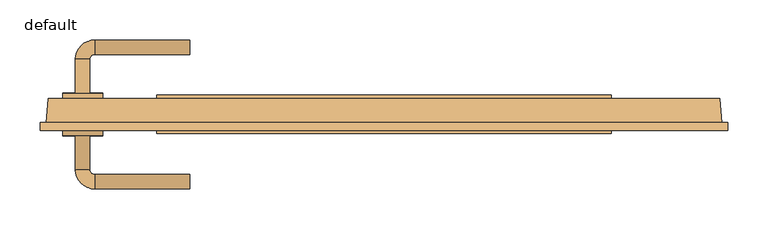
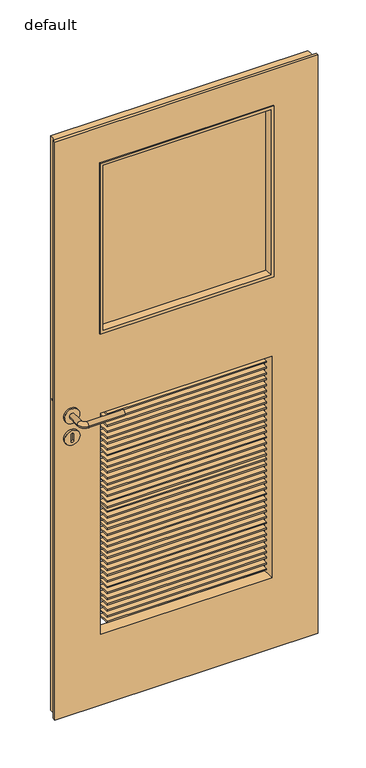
"""IFC4 building model written with IfcOpenShell, lengths in millimetres: door geometry, Panel_FIN_40D_Rebated_Glazed_05 without vent : default."""

from ifc_helpers import new_model, si_unit, point, frame, frame_2d, origin, place, context, project, spatial, polyline, circle_curve, ellipse_curve, trimmed, segment, composite_curve, outline, extrude, faceted_brep, source, transform, mapped, element, save
from ifc_brep_helpers import plane_surface, cylinder_surface, revolved_surface, advanced_brep


def default_aace1b21(model_context):
    return source(origin(), model_context, "Body", "SolidModel", [
        extrude(outline(composite_curve([segment(trimmed(circle_curve(frame_2d((970.5, -376.0)), 25.0), [point((970.5, -351.0))], [point((970.5, -401.0))], False, "CARTESIAN"), True, "CONTINUOUS"), segment(trimmed(circle_curve(frame_2d((970.5, -376.0)), 25.0), [point((970.5, -401.0))], [point((970.5, -351.0))], False, "CARTESIAN"), True, "CONTINUOUS")], self_intersect=False), holes=[composite_curve([segment(polyline([(959.256589, -380.0), (981.743411, -380.0)]), True, "CONTINUOUS"), segment(trimmed(circle_curve(frame_2d((981.743411, -376.0)), 4.0), [point((981.743411, -380.0))], [point((981.743411, -372.0))], True, "CARTESIAN"), True, "CONTINUOUS"), segment(polyline([(981.743411, -372.0), (959.256589, -372.0)]), True, "CONTINUOUS"), segment(trimmed(circle_curve(frame_2d((959.256589, -376.0)), 4.0), [point((959.256589, -372.0))], [point((959.256589, -380.0))], True, "CARTESIAN"), True, "CONTINUOUS")], self_intersect=False)]), frame((0.0, 40.0, 0.0), z_axis=(0.0, 1.0, 0.0), x_axis=(0.0, 0.0, 1.0)), (0.0, 0.0, 1.0), 7.0),
        extrude(outline(composite_curve([segment(trimmed(circle_curve(frame_2d((970.5, -376.0)), 25.0), [point((970.5, -351.0))], [point((970.5, -401.0))], False, "CARTESIAN"), True, "CONTINUOUS"), segment(trimmed(circle_curve(frame_2d((970.5, -376.0)), 25.0), [point((970.5, -401.0))], [point((970.5, -351.0))], False, "CARTESIAN"), True, "CONTINUOUS")], self_intersect=False), holes=[composite_curve([segment(trimmed(circle_curve(frame_2d((981.743411, -376.0)), 4.0), [point((981.743411, -380.0))], [point((981.743411, -372.0))], True, "CARTESIAN"), True, "CONTINUOUS"), segment(polyline([(981.743411, -372.0), (959.256589, -372.0)]), True, "CONTINUOUS"), segment(trimmed(circle_curve(frame_2d((959.256589, -376.0)), 4.0), [point((959.256589, -372.0))], [point((959.256589, -380.0))], True, "CARTESIAN"), True, "CONTINUOUS"), segment(polyline([(959.256589, -380.0), (981.743411, -380.0)]), True, "CONTINUOUS")], self_intersect=False)]), frame((0.0, -7.0, 0.0), z_axis=(0.0, 1.0, 0.0), x_axis=(0.0, 0.0, 1.0)), (0.0, 0.0, 1.0), 7.0),
        advanced_brep(
        [(-401.0, 46.0, 1044.5), (-351.0, 46.0, 1044.5), (-367.0346073, 46.0, 1044.5), (-384.9653927, 46.0, 1044.5), (-401.0, 40.0, 1044.5), (-351.0, 40.0, 1044.5), (-367.0346073, 88.9627146, 1044.5), (-384.9653927, 88.9627146, 1044.5), (-361.0, 94.9973219, 1044.5), (-361.0, 112.9281073, 1044.5), (-242.0, 94.9973219, 1044.5), (-242.0, 112.9281073, 1044.5)],
        [
            (0, 1, circle_curve(frame((-376.0, 46.0, 1044.5), z_axis=(0.0, 1.0, 0.0), x_axis=(1.0, 0.0, 0.0)), 25.0)),
            (1, 0, circle_curve(frame((-376.0, 46.0, 1044.5), z_axis=(0.0, 1.0, 0.0), x_axis=(1.0, 0.0, 0.0)), 25.0)),
            (2, 3, circle_curve(frame((-376.0, 46.0, 1044.5), z_axis=(0.0, -1.0, 0.0), x_axis=(-1.0, 0.0, 0.0)), 8.9653927)),
            (3, 2, circle_curve(frame((-376.0, 46.0, 1044.5), z_axis=(0.0, -1.0, 0.0), x_axis=(-1.0, 0.0, 0.0)), 8.9653927)),
            (4, 5, circle_curve(frame((-376.0, 40.0, 1044.5), z_axis=(0.0, -1.0, 0.0), x_axis=(1.0, 0.0, 0.0)), 25.0)),
            (5, 4, circle_curve(frame((-376.0, 40.0, 1044.5), z_axis=(0.0, -1.0, 0.0), x_axis=(1.0, 0.0, 0.0)), 25.0)),
            (1, 5),
            (4, 0),
            (2, 6),
            (6, 7, circle_curve(frame((-376.0, 88.9627146, 1044.5), z_axis=(0.0, -1.0, 0.0), x_axis=(-1.0, 0.0, 0.0)), 8.9653927)),
            (7, 3),
            (7, 6, circle_curve(frame((-376.0, 88.9627146, 1044.5), z_axis=(0.0, -1.0, 0.0), x_axis=(-1.0, 0.0, 0.0)), 8.9653927)),
            (6, 8, circle_curve(frame((-361.0, 88.9627146, 1044.5), z_axis=(0.0, 0.0, -1.0), x_axis=(-1.0, 0.0, 0.0)), 6.0346073)),
            (8, 9, circle_curve(frame((-361.0, 103.9627146, 1044.5), z_axis=(-1.0, 0.0, 0.0), x_axis=(0.0, 1.0, 0.0)), 8.9653927)),
            (9, 7, circle_curve(frame((-361.0, 88.9627146, 1044.5), z_axis=(0.0, 0.0, 1.0), x_axis=(-1.0, 0.0, 0.0)), 23.9653927)),
            (9, 8, circle_curve(frame((-361.0, 103.9627146, 1044.5), z_axis=(-1.0, 0.0, 0.0), x_axis=(0.0, 1.0, 0.0)), 8.9653927)),
            (10, 11, circle_curve(frame((-242.0, 103.9627146, 1044.5), z_axis=(1.0, 0.0, 0.0), x_axis=(0.0, 1.0, 0.0)), 8.9653927)),
            (11, 10, circle_curve(frame((-242.0, 103.9627146, 1044.5), z_axis=(1.0, 0.0, 0.0), x_axis=(0.0, 1.0, 0.0)), 8.9653927)),
            (8, 10),
            (11, 9),
        ],
        [
            plane_surface(frame((-351.0, 46.0, 1044.5), z_axis=(0.0, 1.0, 0.0), x_axis=(0.0, 0.0, -1.0))),
            plane_surface(frame((-351.0, 40.0, 1044.5), z_axis=(0.0, -1.0, 0.0), x_axis=(0.0, 0.0, 1.0))),
            cylinder_surface(frame((-376.0, 46.0, 1044.5), z_axis=(0.0, -1.0, 0.0), x_axis=(1.0, 0.0, 0.0)), 25.0),
            cylinder_surface(frame((-376.0, 46.0, 1044.5), z_axis=(0.0, -1.0, 0.0), x_axis=(-1.0, 0.0, 0.0)), 8.9653927),
            revolved_surface(trimmed(ellipse_curve(frame((-376.0, 88.9627146, 1044.5), z_axis=(0.0, -1.0, 0.0), x_axis=(-1.0, 0.0, 0.0)), 8.9653927, 8.9653927), [point((-367.0346073, 88.9627146, 1044.5))], [point((-384.9653927, 88.9627146, 1044.5))], True, "CARTESIAN"), (-361.0, 88.9627146, 1044.5), (0.0, 0.0, -1.0)),
            revolved_surface(trimmed(ellipse_curve(frame((-376.0, 88.9627146, 1044.5), z_axis=(0.0, -1.0, 0.0), x_axis=(-1.0, 0.0, 0.0)), 8.9653927, 8.9653927), [point((-384.9653927, 88.9627146, 1044.5))], [point((-367.0346073, 88.9627146, 1044.5))], True, "CARTESIAN"), (-361.0, 88.9627146, 1044.5), (0.0, 0.0, -1.0)),
            plane_surface(frame((-242.0, 103.9627146, 1044.5), z_axis=(1.0, 0.0, 0.0), x_axis=(0.0, 0.0, 1.0))),
            cylinder_surface(frame((-361.0, 103.9627146, 1044.5), z_axis=(-1.0, 0.0, 0.0), x_axis=(0.0, 1.0, 0.0)), 8.9653927),
        ],
        [
            (0, [[1, 2], [3, 4]]),
            (1, [[5, 6]]),
            (2, [[-2, 7, -5, 8]]),
            (2, [[-1, -8, -6, -7]]),
            (3, [[9, 10, 11, -3]]),
            (3, [[-9, -4, -11, 12]]),
            (4, [[-10, 13, 14, 15]]),
            (5, [[-12, -15, 16, -13]]),
            (6, [[17, 18]]),
            (7, [[-14, 19, -18, 20]]),
            (7, [[-16, -20, -17, -19]]),
        ],
    ),
        advanced_brep(
        [(-401.0, -6.0, 1044.5), (-351.0, -6.0, 1044.5), (-367.0346073, -6.0, 1044.5), (-384.9653927, -6.0, 1044.5), (-401.0, 0.0, 1044.5), (-351.0, 0.0, 1044.5), (-384.9653927, -48.9627146, 1044.5), (-367.0346073, -48.9627146, 1044.5), (-361.0, -72.9281073, 1044.5), (-361.0, -54.9973219, 1044.5), (-242.0, -54.9973219, 1044.5), (-242.0, -72.9281073, 1044.5)],
        [
            (0, 1, circle_curve(frame((-376.0, -6.0, 1044.5), z_axis=(0.0, -1.0, 0.0), x_axis=(1.0, 0.0, 0.0)), 25.0)),
            (1, 0, circle_curve(frame((-376.0, -6.0, 1044.5), z_axis=(0.0, -1.0, 0.0), x_axis=(1.0, 0.0, 0.0)), 25.0)),
            (2, 3, circle_curve(frame((-376.0, -6.0, 1044.5), z_axis=(0.0, 1.0, 0.0), x_axis=(-1.0, 0.0, 0.0)), 8.9653927)),
            (3, 2, circle_curve(frame((-376.0, -6.0, 1044.5), z_axis=(0.0, 1.0, 0.0), x_axis=(-1.0, 0.0, 0.0)), 8.9653927)),
            (4, 5, circle_curve(frame((-376.0, 0.0, 1044.5), z_axis=(0.0, 1.0, 0.0), x_axis=(1.0, 0.0, 0.0)), 25.0)),
            (5, 4, circle_curve(frame((-376.0, 0.0, 1044.5), z_axis=(0.0, 1.0, 0.0), x_axis=(1.0, 0.0, 0.0)), 25.0)),
            (0, 4),
            (5, 1),
            (3, 6),
            (6, 7, circle_curve(frame((-376.0, -48.9627146, 1044.5), z_axis=(0.0, 1.0, 0.0), x_axis=(-1.0, 0.0, 0.0)), 8.9653927)),
            (7, 2),
            (7, 6, circle_curve(frame((-376.0, -48.9627146, 1044.5), z_axis=(0.0, 1.0, 0.0), x_axis=(-1.0, 0.0, 0.0)), 8.9653927)),
            (6, 8, circle_curve(frame((-361.0, -48.9627146, 1044.5), z_axis=(0.0, 0.0, 1.0), x_axis=(-1.0, 0.0, 0.0)), 23.9653927)),
            (8, 9, circle_curve(frame((-361.0, -63.9627146, 1044.5), z_axis=(-1.0, 0.0, 0.0), x_axis=(0.0, -1.0, 0.0)), 8.9653927)),
            (9, 7, circle_curve(frame((-361.0, -48.9627146, 1044.5), z_axis=(0.0, 0.0, -1.0), x_axis=(-1.0, 0.0, 0.0)), 6.0346073)),
            (9, 8, circle_curve(frame((-361.0, -63.9627146, 1044.5), z_axis=(-1.0, 0.0, 0.0), x_axis=(0.0, -1.0, 0.0)), 8.9653927)),
            (10, 11, circle_curve(frame((-242.0, -63.9627146, 1044.5), z_axis=(1.0, 0.0, 0.0), x_axis=(0.0, -1.0, 0.0)), 8.9653927)),
            (11, 10, circle_curve(frame((-242.0, -63.9627146, 1044.5), z_axis=(1.0, 0.0, 0.0), x_axis=(0.0, -1.0, 0.0)), 8.9653927)),
            (8, 11),
            (10, 9),
        ],
        [
            plane_surface(frame((-351.0, -6.0, 1044.5), z_axis=(0.0, -1.0, 0.0), x_axis=(0.0, 0.0, -1.0))),
            plane_surface(frame((-351.0, 0.0, 1044.5), z_axis=(0.0, 1.0, 0.0), x_axis=(0.0, 0.0, 1.0))),
            cylinder_surface(frame((-376.0, -6.0, 1044.5), z_axis=(0.0, 1.0, 0.0), x_axis=(1.0, 0.0, 0.0)), 25.0),
            cylinder_surface(frame((-376.0, -6.0, 1044.5), z_axis=(0.0, 1.0, 0.0), x_axis=(-1.0, 0.0, 0.0)), 8.9653927),
            revolved_surface(trimmed(ellipse_curve(frame((-376.0, -48.9627146, 1044.5), z_axis=(0.0, -1.0, 0.0), x_axis=(-1.0, 0.0, 0.0)), 8.9653927, 8.9653927), [point((-367.0346073, -48.9627146, 1044.5))], [point((-384.9653927, -48.9627146, 1044.5))], True, "CARTESIAN"), (-361.0, -48.9627146, 1044.5), (0.0, 0.0, -1.0)),
            revolved_surface(trimmed(ellipse_curve(frame((-376.0, -48.9627146, 1044.5), z_axis=(0.0, -1.0, 0.0), x_axis=(-1.0, 0.0, 0.0)), 8.9653927, 8.9653927), [point((-384.9653927, -48.9627146, 1044.5))], [point((-367.0346073, -48.9627146, 1044.5))], True, "CARTESIAN"), (-361.0, -48.9627146, 1044.5), (0.0, 0.0, -1.0)),
            plane_surface(frame((-242.0, -63.9627146, 1044.5), z_axis=(1.0, 0.0, 0.0), x_axis=(0.0, 0.0, 1.0))),
            cylinder_surface(frame((-361.0, -63.9627146, 1044.5), z_axis=(-1.0, 0.0, 0.0), x_axis=(0.0, -1.0, 0.0)), 8.9653927),
        ],
        [
            (0, [[1, 2], [3, 4]]),
            (1, [[5, 6]]),
            (2, [[7, -6, 8, -1]]),
            (2, [[-8, -5, -7, -2]]),
            (3, [[-4, 9, 10, 11]]),
            (3, [[12, -9, -3, -11]]),
            (4, [[13, 14, 15, -10]]),
            (5, [[-15, 16, -13, -12]]),
            (6, [[17, 18]]),
            (7, [[19, -17, 20, -14]]),
            (7, [[-20, -18, -19, -16]]),
        ],
    ),
        faceted_brep([(418.9021956, 40.0, 18.0), (-418.9021956, 40.0, 18.0), (-418.9021956, 40.0, 1997.0), (418.9021956, 40.0, 1997.0), (-279.0, 40.0, 1017.0097387), (-279.0, 40.0, 255.0097387), (279.0, 40.0, 255.0097387), (279.0, 40.0, 1017.0097387), (-279.0, 40.0, 1297.0), (279.0, 40.0, 1297.0), (279.0, 40.0, 1876.0), (-279.0, 40.0, 1876.0), (421.0, 10.0, 1997.0), (421.0, 10.0, 18.0), (-421.0, 10.0, 18.0), (-421.0, 10.0, 1997.0), (279.0, 0.0, 1017.0097387), (-279.0, 0.0, 1017.0097387), (279.0, 0.0, 255.0097387), (-279.0, 0.0, 255.0097387), (-429.0, 0.0, 2003.0), (-429.0, 0.0, 12.0), (429.0, 0.0, 12.0), (429.0, 0.0, 2003.0), (-279.0, 0.0, 1876.0), (279.0, 0.0, 1876.0), (279.0, 0.0, 1297.0), (-279.0, 0.0, 1297.0), (429.0, 10.0, 12.0), (429.0, 10.0, 2003.0), (-429.0, 10.0, 12.0), (-429.0, 10.0, 2003.0)], [[[0, 1, 2, 3], [4, 5, 6, 7], [8, 9, 10, 11]], [[3, 12, 13, 0]], [[1, 14, 15, 2]], [[14, 1, 0, 13]], [[7, 16, 17, 4]], [[6, 18, 16, 7]], [[5, 19, 18, 6]], [[4, 17, 19, 5]], [[20, 21, 22, 23], [17, 16, 18, 19], [24, 25, 26, 27]], [[22, 28, 29, 23]], [[21, 30, 28, 22]], [[20, 31, 30, 21]], [[30, 31, 29, 28], [14, 13, 12, 15]], [[23, 29, 31, 20]], [[12, 3, 2, 15]], [[24, 27, 8, 11]], [[27, 26, 9, 8]], [[26, 25, 10, 9]], [[11, 10, 25, 24]]]),
        faceted_brep([(-259.2469897, 40.0, 1007.5), (260.7530103, 40.0, 1007.5), (260.7530103, 40.0, 1002.5), (-259.2469897, 40.0, 1002.5), (-259.2469897, 0.0, 1002.5), (-259.2469897, 0.0, 1007.5), (260.7530103, 0.0, 1002.5), (260.7530103, 0.0, 1007.5)], [[[0, 1, 2, 3]], [[3, 4, 5, 0]], [[2, 6, 4, 3]], [[1, 7, 6, 2]], [[0, 5, 7, 1]], [[5, 4, 6, 7]]]),
        faceted_brep([(-259.2469897, 40.0, 987.5), (260.7530103, 40.0, 987.5), (260.7530103, 40.0, 982.5), (-259.2469897, 40.0, 982.5), (-259.2469897, 0.0, 982.5), (-259.2469897, 0.0, 987.5), (260.7530103, 0.0, 982.5), (260.7530103, 0.0, 987.5)], [[[0, 1, 2, 3]], [[3, 4, 5, 0]], [[2, 6, 4, 3]], [[1, 7, 6, 2]], [[0, 5, 7, 1]], [[5, 4, 6, 7]]]),
        faceted_brep([(-259.2469897, 40.0, 967.5), (260.7530103, 40.0, 967.5), (260.7530103, 40.0, 962.5), (-259.2469897, 40.0, 962.5), (-259.2469897, 0.0, 962.5), (-259.2469897, 0.0, 967.5), (260.7530103, 0.0, 962.5), (260.7530103, 0.0, 967.5)], [[[0, 1, 2, 3]], [[3, 4, 5, 0]], [[2, 6, 4, 3]], [[1, 7, 6, 2]], [[0, 5, 7, 1]], [[5, 4, 6, 7]]]),
        faceted_brep([(-259.2469897, 40.0, 947.5), (260.7530103, 40.0, 947.5), (260.7530103, 40.0, 942.5), (-259.2469897, 40.0, 942.5), (-259.2469897, 0.0, 942.5), (-259.2469897, 0.0, 947.5), (260.7530103, 0.0, 942.5), (260.7530103, 0.0, 947.5)], [[[0, 1, 2, 3]], [[3, 4, 5, 0]], [[2, 6, 4, 3]], [[1, 7, 6, 2]], [[0, 5, 7, 1]], [[5, 4, 6, 7]]]),
        faceted_brep([(-259.2469897, 40.0, 927.5), (260.7530103, 40.0, 927.5), (260.7530103, 40.0, 922.5), (-259.2469897, 40.0, 922.5), (-259.2469897, 0.0, 922.5), (-259.2469897, 0.0, 927.5), (260.7530103, 0.0, 922.5), (260.7530103, 0.0, 927.5)], [[[0, 1, 2, 3]], [[3, 4, 5, 0]], [[2, 6, 4, 3]], [[1, 7, 6, 2]], [[0, 5, 7, 1]], [[5, 4, 6, 7]]]),
        faceted_brep([(-259.2469897, 40.0, 907.5), (260.7530103, 40.0, 907.5), (260.7530103, 40.0, 902.5), (-259.2469897, 40.0, 902.5), (-259.2469897, 0.0, 902.5), (-259.2469897, 0.0, 907.5), (260.7530103, 0.0, 902.5), (260.7530103, 0.0, 907.5)], [[[0, 1, 2, 3]], [[3, 4, 5, 0]], [[2, 6, 4, 3]], [[1, 7, 6, 2]], [[0, 5, 7, 1]], [[5, 4, 6, 7]]]),
        faceted_brep([(-259.2469897, 40.0, 887.5), (260.7530103, 40.0, 887.5), (260.7530103, 40.0, 882.5), (-259.2469897, 40.0, 882.5), (-259.2469897, 0.0, 882.5), (-259.2469897, 0.0, 887.5), (260.7530103, 0.0, 882.5), (260.7530103, 0.0, 887.5)], [[[0, 1, 2, 3]], [[3, 4, 5, 0]], [[2, 6, 4, 3]], [[1, 7, 6, 2]], [[0, 5, 7, 1]], [[5, 4, 6, 7]]]),
        faceted_brep([(-259.2469897, 40.0, 867.5), (260.7530103, 40.0, 867.5), (260.7530103, 40.0, 862.5), (-259.2469897, 40.0, 862.5), (-259.2469897, 0.0, 862.5), (-259.2469897, 0.0, 867.5), (260.7530103, 0.0, 862.5), (260.7530103, 0.0, 867.5)], [[[0, 1, 2, 3]], [[3, 4, 5, 0]], [[2, 6, 4, 3]], [[1, 7, 6, 2]], [[0, 5, 7, 1]], [[5, 4, 6, 7]]]),
        faceted_brep([(-259.2469897, 40.0, 847.5), (260.7530103, 40.0, 847.5), (260.7530103, 40.0, 842.5), (-259.2469897, 40.0, 842.5), (-259.2469897, 0.0, 842.5), (-259.2469897, 0.0, 847.5), (260.7530103, 0.0, 842.5), (260.7530103, 0.0, 847.5)], [[[0, 1, 2, 3]], [[3, 4, 5, 0]], [[2, 6, 4, 3]], [[1, 7, 6, 2]], [[0, 5, 7, 1]], [[5, 4, 6, 7]]]),
        faceted_brep([(-259.2469897, 40.0, 827.5), (260.7530103, 40.0, 827.5), (260.7530103, 40.0, 822.5), (-259.2469897, 40.0, 822.5), (-259.2469897, 0.0, 822.5), (-259.2469897, 0.0, 827.5), (260.7530103, 0.0, 822.5), (260.7530103, 0.0, 827.5)], [[[0, 1, 2, 3]], [[3, 4, 5, 0]], [[2, 6, 4, 3]], [[1, 7, 6, 2]], [[0, 5, 7, 1]], [[5, 4, 6, 7]]]),
        faceted_brep([(-259.2469897, 40.0, 807.5), (260.7530103, 40.0, 807.5), (260.7530103, 40.0, 802.5), (-259.2469897, 40.0, 802.5), (-259.2469897, 0.0, 802.5), (-259.2469897, 0.0, 807.5), (260.7530103, 0.0, 802.5), (260.7530103, 0.0, 807.5)], [[[0, 1, 2, 3]], [[3, 4, 5, 0]], [[2, 6, 4, 3]], [[1, 7, 6, 2]], [[0, 5, 7, 1]], [[5, 4, 6, 7]]]),
        faceted_brep([(-259.2469897, 40.0, 787.5), (260.7530103, 40.0, 787.5), (260.7530103, 40.0, 782.5), (-259.2469897, 40.0, 782.5), (-259.2469897, 0.0, 782.5), (-259.2469897, 0.0, 787.5), (260.7530103, 0.0, 782.5), (260.7530103, 0.0, 787.5)], [[[0, 1, 2, 3]], [[3, 4, 5, 0]], [[2, 6, 4, 3]], [[1, 7, 6, 2]], [[0, 5, 7, 1]], [[5, 4, 6, 7]]]),
        faceted_brep([(-259.2469897, 40.0, 767.5), (260.7530103, 40.0, 767.5), (260.7530103, 40.0, 762.5), (-259.2469897, 40.0, 762.5), (-259.2469897, 0.0, 762.5), (-259.2469897, 0.0, 767.5), (260.7530103, 0.0, 762.5), (260.7530103, 0.0, 767.5)], [[[0, 1, 2, 3]], [[3, 4, 5, 0]], [[2, 6, 4, 3]], [[1, 7, 6, 2]], [[0, 5, 7, 1]], [[5, 4, 6, 7]]]),
        faceted_brep([(-259.2469897, 40.0, 747.5), (260.7530103, 40.0, 747.5), (260.7530103, 40.0, 742.5), (-259.2469897, 40.0, 742.5), (-259.2469897, 0.0, 742.5), (-259.2469897, 0.0, 747.5), (260.7530103, 0.0, 742.5), (260.7530103, 0.0, 747.5)], [[[0, 1, 2, 3]], [[3, 4, 5, 0]], [[2, 6, 4, 3]], [[1, 7, 6, 2]], [[0, 5, 7, 1]], [[5, 4, 6, 7]]]),
        faceted_brep([(-259.2469897, 40.0, 727.5), (260.7530103, 40.0, 727.5), (260.7530103, 40.0, 722.5), (-259.2469897, 40.0, 722.5), (-259.2469897, 0.0, 722.5), (-259.2469897, 0.0, 727.5), (260.7530103, 0.0, 722.5), (260.7530103, 0.0, 727.5)], [[[0, 1, 2, 3]], [[3, 4, 5, 0]], [[2, 6, 4, 3]], [[1, 7, 6, 2]], [[0, 5, 7, 1]], [[5, 4, 6, 7]]]),
        faceted_brep([(-259.2469897, 40.0, 707.5), (260.7530103, 40.0, 707.5), (260.7530103, 40.0, 702.5), (-259.2469897, 40.0, 702.5), (-259.2469897, 0.0, 702.5), (-259.2469897, 0.0, 707.5), (260.7530103, 0.0, 702.5), (260.7530103, 0.0, 707.5)], [[[0, 1, 2, 3]], [[3, 4, 5, 0]], [[2, 6, 4, 3]], [[1, 7, 6, 2]], [[0, 5, 7, 1]], [[5, 4, 6, 7]]]),
        faceted_brep([(-259.2469897, 40.0, 687.5), (260.7530103, 40.0, 687.5), (260.7530103, 40.0, 682.5), (-259.2469897, 40.0, 682.5), (-259.2469897, 0.0, 682.5), (-259.2469897, 0.0, 687.5), (260.7530103, 0.0, 682.5), (260.7530103, 0.0, 687.5)], [[[0, 1, 2, 3]], [[3, 4, 5, 0]], [[2, 6, 4, 3]], [[1, 7, 6, 2]], [[0, 5, 7, 1]], [[5, 4, 6, 7]]]),
        faceted_brep([(-259.2469897, 40.0, 672.9902613), (260.7530103, 40.0, 672.9902613), (260.7530103, 40.0, 667.9902613), (-259.2469897, 40.0, 667.9902613), (-259.2469897, 0.0, 667.9902613), (-259.2469897, 0.0, 672.9902613), (260.7530103, 0.0, 667.9902613), (260.7530103, 0.0, 672.9902613)], [[[0, 1, 2, 3]], [[3, 4, 5, 0]], [[2, 6, 4, 3]], [[1, 7, 6, 2]], [[0, 5, 7, 1]], [[5, 4, 6, 7]]]),
        faceted_brep([(-259.2469897, 40.0, 652.9902613), (260.7530103, 40.0, 652.9902613), (260.7530103, 40.0, 647.9902613), (-259.2469897, 40.0, 647.9902613), (-259.2469897, 0.0, 647.9902613), (-259.2469897, 0.0, 652.9902613), (260.7530103, 0.0, 647.9902613), (260.7530103, 0.0, 652.9902613)], [[[0, 1, 2, 3]], [[3, 4, 5, 0]], [[2, 6, 4, 3]], [[1, 7, 6, 2]], [[0, 5, 7, 1]], [[5, 4, 6, 7]]]),
        faceted_brep([(-259.2469897, 40.0, 632.9902613), (260.7530103, 40.0, 632.9902613), (260.7530103, 40.0, 627.9902613), (-259.2469897, 40.0, 627.9902613), (-259.2469897, 0.0, 627.9902613), (-259.2469897, 0.0, 632.9902613), (260.7530103, 0.0, 627.9902613), (260.7530103, 0.0, 632.9902613)], [[[0, 1, 2, 3]], [[3, 4, 5, 0]], [[2, 6, 4, 3]], [[1, 7, 6, 2]], [[0, 5, 7, 1]], [[5, 4, 6, 7]]]),
        faceted_brep([(-259.2469897, 40.0, 612.9902613), (260.7530103, 40.0, 612.9902613), (260.7530103, 40.0, 607.9902613), (-259.2469897, 40.0, 607.9902613), (-259.2469897, 0.0, 607.9902613), (-259.2469897, 0.0, 612.9902613), (260.7530103, 0.0, 607.9902613), (260.7530103, 0.0, 612.9902613)], [[[0, 1, 2, 3]], [[3, 4, 5, 0]], [[2, 6, 4, 3]], [[1, 7, 6, 2]], [[0, 5, 7, 1]], [[5, 4, 6, 7]]]),
        faceted_brep([(-259.2469897, 40.0, 592.9902613), (260.7530103, 40.0, 592.9902613), (260.7530103, 40.0, 587.9902613), (-259.2469897, 40.0, 587.9902613), (-259.2469897, 0.0, 587.9902613), (-259.2469897, 0.0, 592.9902613), (260.7530103, 0.0, 587.9902613), (260.7530103, 0.0, 592.9902613)], [[[0, 1, 2, 3]], [[3, 4, 5, 0]], [[2, 6, 4, 3]], [[1, 7, 6, 2]], [[0, 5, 7, 1]], [[5, 4, 6, 7]]]),
        faceted_brep([(-259.2469897, 40.0, 572.9902613), (260.7530103, 40.0, 572.9902613), (260.7530103, 40.0, 567.9902613), (-259.2469897, 40.0, 567.9902613), (-259.2469897, 0.0, 567.9902613), (-259.2469897, 0.0, 572.9902613), (260.7530103, 0.0, 567.9902613), (260.7530103, 0.0, 572.9902613)], [[[0, 1, 2, 3]], [[3, 4, 5, 0]], [[2, 6, 4, 3]], [[1, 7, 6, 2]], [[0, 5, 7, 1]], [[5, 4, 6, 7]]]),
        faceted_brep([(-259.2469897, 40.0, 552.9902613), (260.7530103, 40.0, 552.9902613), (260.7530103, 40.0, 547.9902613), (-259.2469897, 40.0, 547.9902613), (-259.2469897, 0.0, 547.9902613), (-259.2469897, 0.0, 552.9902613), (260.7530103, 0.0, 547.9902613), (260.7530103, 0.0, 552.9902613)], [[[0, 1, 2, 3]], [[3, 4, 5, 0]], [[2, 6, 4, 3]], [[1, 7, 6, 2]], [[0, 5, 7, 1]], [[5, 4, 6, 7]]]),
        faceted_brep([(-259.2469897, 40.0, 532.9902613), (260.7530103, 40.0, 532.9902613), (260.7530103, 40.0, 527.9902613), (-259.2469897, 40.0, 527.9902613), (-259.2469897, 0.0, 527.9902613), (-259.2469897, 0.0, 532.9902613), (260.7530103, 0.0, 527.9902613), (260.7530103, 0.0, 532.9902613)], [[[0, 1, 2, 3]], [[3, 4, 5, 0]], [[2, 6, 4, 3]], [[1, 7, 6, 2]], [[0, 5, 7, 1]], [[5, 4, 6, 7]]]),
        faceted_brep([(-259.2469897, 40.0, 512.9902613), (260.7530103, 40.0, 512.9902613), (260.7530103, 40.0, 507.9902613), (-259.2469897, 40.0, 507.9902613), (-259.2469897, 0.0, 507.9902613), (-259.2469897, 0.0, 512.9902613), (260.7530103, 0.0, 507.9902613), (260.7530103, 0.0, 512.9902613)], [[[0, 1, 2, 3]], [[3, 4, 5, 0]], [[2, 6, 4, 3]], [[1, 7, 6, 2]], [[0, 5, 7, 1]], [[5, 4, 6, 7]]]),
        faceted_brep([(-259.2469897, 40.0, 492.9902613), (260.7530103, 40.0, 492.9902613), (260.7530103, 40.0, 487.9902613), (-259.2469897, 40.0, 487.9902613), (-259.2469897, 0.0, 487.9902613), (-259.2469897, 0.0, 492.9902613), (260.7530103, 0.0, 487.9902613), (260.7530103, 0.0, 492.9902613)], [[[0, 1, 2, 3]], [[3, 4, 5, 0]], [[2, 6, 4, 3]], [[1, 7, 6, 2]], [[0, 5, 7, 1]], [[5, 4, 6, 7]]]),
        faceted_brep([(-259.2469897, 40.0, 472.9902613), (260.7530103, 40.0, 472.9902613), (260.7530103, 40.0, 467.9902613), (-259.2469897, 40.0, 467.9902613), (-259.2469897, 0.0, 467.9902613), (-259.2469897, 0.0, 472.9902613), (260.7530103, 0.0, 467.9902613), (260.7530103, 0.0, 472.9902613)], [[[0, 1, 2, 3]], [[3, 4, 5, 0]], [[2, 6, 4, 3]], [[1, 7, 6, 2]], [[0, 5, 7, 1]], [[5, 4, 6, 7]]]),
        faceted_brep([(-259.2469897, 40.0, 452.9902613), (260.7530103, 40.0, 452.9902613), (260.7530103, 40.0, 447.9902613), (-259.2469897, 40.0, 447.9902613), (-259.2469897, 0.0, 447.9902613), (-259.2469897, 0.0, 452.9902613), (260.7530103, 0.0, 447.9902613), (260.7530103, 0.0, 452.9902613)], [[[0, 1, 2, 3]], [[3, 4, 5, 0]], [[2, 6, 4, 3]], [[1, 7, 6, 2]], [[0, 5, 7, 1]], [[5, 4, 6, 7]]]),
        faceted_brep([(-259.2469897, 40.0, 432.9902613), (260.7530103, 40.0, 432.9902613), (260.7530103, 40.0, 427.9902613), (-259.2469897, 40.0, 427.9902613), (-259.2469897, 0.0, 427.9902613), (-259.2469897, 0.0, 432.9902613), (260.7530103, 0.0, 427.9902613), (260.7530103, 0.0, 432.9902613)], [[[0, 1, 2, 3]], [[3, 4, 5, 0]], [[2, 6, 4, 3]], [[1, 7, 6, 2]], [[0, 5, 7, 1]], [[5, 4, 6, 7]]]),
        faceted_brep([(-259.2469897, 40.0, 412.9902613), (260.7530103, 40.0, 412.9902613), (260.7530103, 40.0, 407.9902613), (-259.2469897, 40.0, 407.9902613), (-259.2469897, 0.0, 407.9902613), (-259.2469897, 0.0, 412.9902613), (260.7530103, 0.0, 407.9902613), (260.7530103, 0.0, 412.9902613)], [[[0, 1, 2, 3]], [[3, 4, 5, 0]], [[2, 6, 4, 3]], [[1, 7, 6, 2]], [[0, 5, 7, 1]], [[5, 4, 6, 7]]]),
        faceted_brep([(-259.2469897, 40.0, 332.9902613), (260.7530103, 40.0, 332.9902613), (260.7530103, 40.0, 327.9902613), (-259.2469897, 40.0, 327.9902613), (-259.2469897, 0.0, 327.9902613), (-259.2469897, 0.0, 332.9902613), (260.7530103, 0.0, 327.9902613), (260.7530103, 0.0, 332.9902613)], [[[0, 1, 2, 3]], [[3, 4, 5, 0]], [[2, 6, 4, 3]], [[1, 7, 6, 2]], [[0, 5, 7, 1]], [[5, 4, 6, 7]]]),
        faceted_brep([(-259.2469897, 40.0, 312.9902613), (260.7530103, 40.0, 312.9902613), (260.7530103, 40.0, 307.9902613), (-259.2469897, 40.0, 307.9902613), (-259.2469897, 0.0, 307.9902613), (-259.2469897, 0.0, 312.9902613), (260.7530103, 0.0, 307.9902613), (260.7530103, 0.0, 312.9902613)], [[[0, 1, 2, 3]], [[3, 4, 5, 0]], [[2, 6, 4, 3]], [[1, 7, 6, 2]], [[0, 5, 7, 1]], [[5, 4, 6, 7]]]),
        faceted_brep([(-259.2469897, 40.0, 292.9902613), (260.7530103, 40.0, 292.9902613), (260.7530103, 40.0, 287.9902613), (-259.2469897, 40.0, 287.9902613), (-259.2469897, 0.0, 287.9902613), (-259.2469897, 0.0, 292.9902613), (260.7530103, 0.0, 287.9902613), (260.7530103, 0.0, 292.9902613)], [[[0, 1, 2, 3]], [[3, 4, 5, 0]], [[2, 6, 4, 3]], [[1, 7, 6, 2]], [[0, 5, 7, 1]], [[5, 4, 6, 7]]]),
        faceted_brep([(-259.2469897, 40.0, 392.9902613), (260.7530103, 40.0, 392.9902613), (260.7530103, 40.0, 387.9902613), (-259.2469897, 40.0, 387.9902613), (-259.2469897, 0.0, 387.9902613), (-259.2469897, 0.0, 392.9902613), (260.7530103, 0.0, 387.9902613), (260.7530103, 0.0, 392.9902613)], [[[0, 1, 2, 3]], [[3, 4, 5, 0]], [[2, 6, 4, 3]], [[1, 7, 6, 2]], [[0, 5, 7, 1]], [[5, 4, 6, 7]]]),
        faceted_brep([(-259.2469897, 40.0, 372.9902613), (260.7530103, 40.0, 372.9902613), (260.7530103, 40.0, 367.9902613), (-259.2469897, 40.0, 367.9902613), (-259.2469897, 0.0, 367.9902613), (-259.2469897, 0.0, 372.9902613), (260.7530103, 0.0, 367.9902613), (260.7530103, 0.0, 372.9902613)], [[[0, 1, 2, 3]], [[3, 4, 5, 0]], [[2, 6, 4, 3]], [[1, 7, 6, 2]], [[0, 5, 7, 1]], [[5, 4, 6, 7]]]),
        faceted_brep([(-259.2469897, 40.0, 352.9902613), (260.7530103, 40.0, 352.9902613), (260.7530103, 40.0, 347.9902613), (-259.2469897, 40.0, 347.9902613), (-259.2469897, 0.0, 347.9902613), (-259.2469897, 0.0, 352.9902613), (260.7530103, 0.0, 347.9902613), (260.7530103, 0.0, 352.9902613)], [[[0, 1, 2, 3]], [[3, 4, 5, 0]], [[2, 6, 4, 3]], [[1, 7, 6, 2]], [[0, 5, 7, 1]], [[5, 4, 6, 7]]]),
        faceted_brep([(-273.5, -4.0, 1870.5), (-273.5, -4.0, 1302.5), (-269.0, 17.0, 1307.0), (-269.0, 17.0, 1866.0), (-279.0, 16.2, 1297.0), (-279.0, 16.2, 1876.0), (-279.0, 0.0, 1297.0), (-279.0, 0.0, 1876.0), (-283.5, 0.0, 1880.5), (-283.5, 0.0, 1292.5), (-283.5, -4.0, 1292.5), (-283.5, -4.0, 1880.5), (273.5, -4.0, 1302.5), (269.0, 17.0, 1307.0), (279.0, 16.2, 1297.0), (279.0, 0.0, 1297.0), (283.5, 0.0, 1292.5), (283.5, -4.0, 1292.5), (273.5, -4.0, 1870.5), (269.0, 17.0, 1866.0), (279.0, 16.2, 1876.0), (279.0, 0.0, 1876.0), (283.5, 0.0, 1880.5), (283.5, -4.0, 1880.5)], [[[0, 1, 2, 3]], [[3, 2, 4, 5]], [[5, 4, 6, 7]], [[8, 9, 10, 11]], [[1, 12, 13, 2]], [[2, 13, 14, 4]], [[4, 14, 15, 6]], [[9, 16, 17, 10]], [[12, 18, 19, 13]], [[13, 19, 20, 14]], [[14, 20, 21, 15]], [[16, 22, 23, 17]], [[18, 0, 3, 19]], [[19, 3, 5, 20]], [[20, 5, 7, 21]], [[9, 8, 22, 16], [7, 6, 15, 21]], [[22, 8, 11, 23]], [[11, 10, 17, 23], [1, 0, 18, 12]]]),
        faceted_brep([(273.5, 44.0, 1870.5), (273.5, 44.0, 1302.5), (269.0, 23.0, 1307.0), (269.0, 23.0, 1866.0), (279.0, 23.8, 1297.0), (279.0, 23.8, 1876.0), (279.0, 40.0, 1297.0), (279.0, 40.0, 1876.0), (283.5, 40.0, 1880.5), (283.5, 40.0, 1292.5), (283.5, 44.0, 1292.5), (283.5, 44.0, 1880.5), (-273.5, 44.0, 1302.5), (-269.0, 23.0, 1307.0), (-279.0, 23.8, 1297.0), (-279.0, 40.0, 1297.0), (-283.5, 40.0, 1292.5), (-283.5, 44.0, 1292.5), (-273.5, 44.0, 1870.5), (-269.0, 23.0, 1866.0), (-279.0, 23.8, 1876.0), (-279.0, 40.0, 1876.0), (-283.5, 40.0, 1880.5), (-283.5, 44.0, 1880.5)], [[[0, 1, 2, 3]], [[3, 2, 4, 5]], [[5, 4, 6, 7]], [[8, 9, 10, 11]], [[1, 12, 13, 2]], [[2, 13, 14, 4]], [[4, 14, 15, 6]], [[9, 16, 17, 10]], [[12, 18, 19, 13]], [[13, 19, 20, 14]], [[14, 20, 21, 15]], [[16, 22, 23, 17]], [[18, 0, 3, 19]], [[19, 3, 5, 20]], [[20, 5, 7, 21]], [[9, 8, 22, 16], [7, 6, 15, 21]], [[22, 8, 11, 23]], [[11, 10, 17, 23], [1, 0, 18, 12]]]),
        extrude(outline(polyline([(-279.0, 17.0), (-279.0, 23.0), (279.0, 23.0), (279.0, 17.0), (-279.0, 17.0)])), frame((0.0, 0.0, 1297.0), z_axis=(0.0, 0.0, 1.0), x_axis=(1.0, 0.0, 0.0)), (0.0, 0.0, 1.0), 579.0),
    ])


if __name__ == "__main__":
    model = new_model("IFC4")
    model_context = context("Model", 3, world=origin())
    ifc_project = project(units=[si_unit("LENGTHUNIT", "METRE", prefix="MILLI")], contexts=[model_context])
    site = spatial("IfcSite", under=ifc_project)
    building = spatial("IfcBuilding", under=site)
    placement = place(None, origin())
    default_shape = default_aace1b21(model_context)
    element("IfcDoor", 1, ObjectType="Panel_FIN_40D_Rebated_Glazed_05 without vent : default", at=placement, inside=building, context=model_context, shape_type="MappedRepresentation", body=[
        mapped(default_shape, transform((0.0, 0.0, 0.0), x_axis=(1.0, 0.0, 0.0), y_axis=(0.0, 1.0, 0.0), z_axis=(0.0, 0.0, 1.0))),
    ])
    save(model, "model.ifc")
